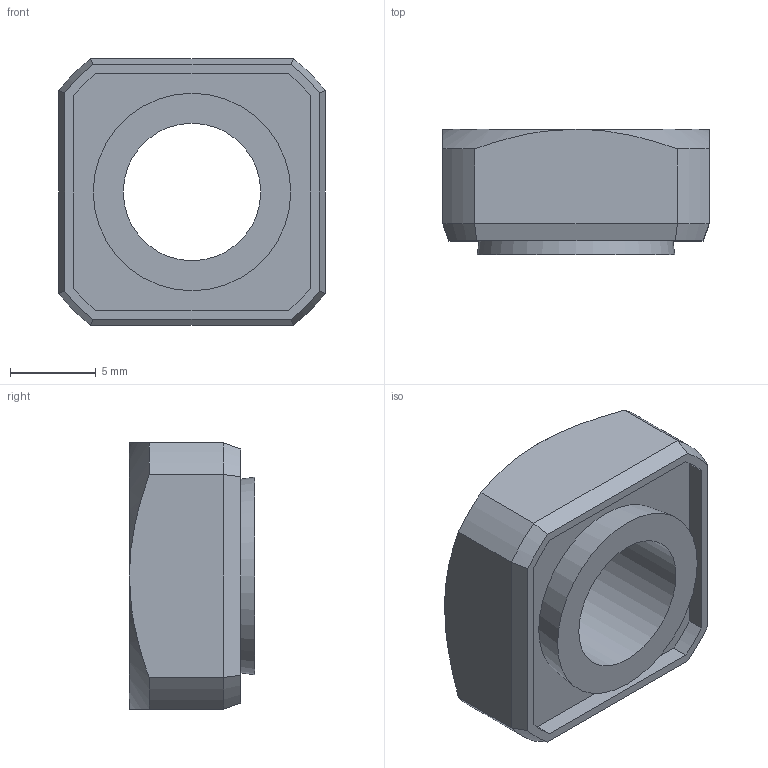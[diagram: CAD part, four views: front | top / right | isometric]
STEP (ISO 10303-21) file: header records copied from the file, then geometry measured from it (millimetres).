
FILE_DESCRIPTION(/* description */ (''),/* implementation_level */ '2;1');
FILE_NAME(/* name */ 'D:\Sukhmani\Fastit\KP Nut\KP 8-T.stp',/* time_stamp */ '2024-03-14T12:24:28+06:00',/* author */ ('edc.sukhmani'),/* organization */ (''),/* preprocessor_version */ 'ST-DEVELOPER v18.1',/* originating_system */ 'Autodesk Inventor 2022',/* authorisation */ '');
FILE_SCHEMA (('AUTOMOTIVE_DESIGN { 1 0 10303 214 3 1 1 }'));
Length unit declared in the file: millimetre
Products named in the file (1): KP 8-T
Bounding box: 15.52 x 7.3 x 15.52 mm (x, y, z)
Volume: 1105.2 mm3; surface area: 1001.7 mm2
Topology: 1 solids, 1 shells, 36 faces, 84 edges, 52 vertices
Faces by surface type: plane 16, cone 10, cylinder 10
Full cylindrical faces by diameter (mm): 8 x1, 9.5 x1
Entity records: 1055 total; most frequent: CARTESIAN_POINT 205, DIRECTION 174, ORIENTED_EDGE 168, EDGE_CURVE 84, AXIS2_PLACEMENT_3D 69, VERTEX_POINT 52, EDGE_LOOP 40, FACE_OUTER_BOUND 36
